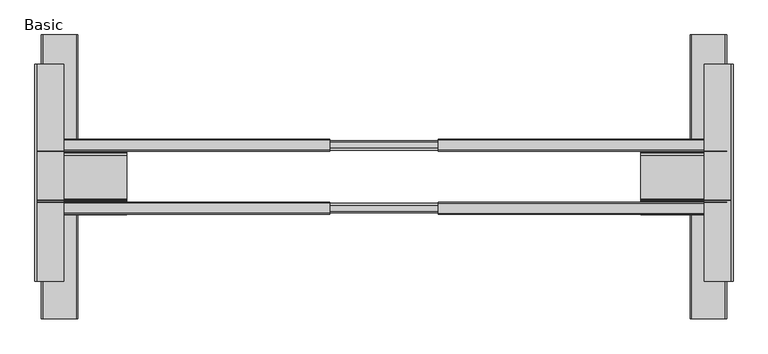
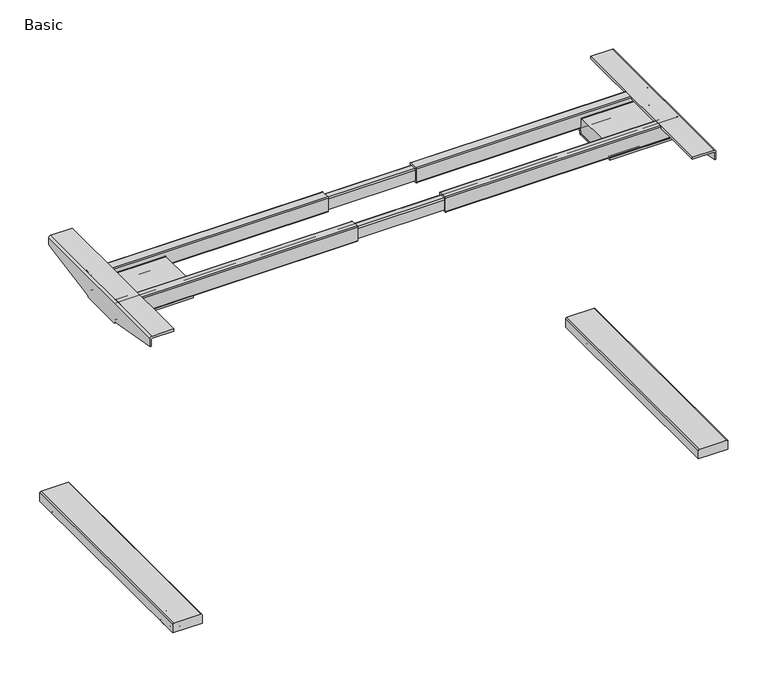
"""IFC4 building model written with IfcOpenShell, lengths in millimetres: furniture geometry, Steelcase Turnstone - Bivi - T Base : Basic."""

from ifc_helpers import new_model, si_unit, point, frame, frame_2d, origin, place, context, project, spatial, polyline, circle_curve, ellipse_curve, trimmed, segment, composite_curve, outline, extrude, source, transform, mapped, element, save
from ifc_brep_helpers import plane_surface, cylinder_surface, revolved_surface, advanced_brep


def basic_f1bcc497(model_context):
    return source(origin(), model_context, "Body", "SolidModel", [
        advanced_brep(
        [(497.0697971, 171.9471628, 0.0), (497.0697971, 111.031484, 0.0), (497.0697971, 141.4893234, 0.0), (497.0697971, 173.9813657, 2.034203), (497.0697971, 108.997281, 2.034203), (497.0697971, 173.9813657, 5.0424709), (497.0697971, 108.997281, 5.0424709), (497.0697971, 171.9620755, 7.0617612), (497.0697971, 111.0165712, 7.0617612), (497.0697971, 149.0390808, 9.288914), (497.0697971, 133.9395659, 9.288914), (497.0697971, 141.4893234, 9.288914)],
        [
            (0, 1, circle_curve(frame((497.0697971, 141.4893234, 0.0), z_axis=(0.0, 0.0, -1.0), x_axis=(0.0, -1.0, 0.0)), 30.4578394)),
            (1, 2),
            (2, 0),
            (1, 0, circle_curve(frame((497.0697971, 141.4893234, 0.0), z_axis=(0.0, 0.0, -1.0), x_axis=(0.0, -1.0, 0.0)), 30.4578394)),
            (3, 4, circle_curve(frame((497.0697971, 141.4893234, 2.034203), z_axis=(0.0, 0.0, -1.0), x_axis=(0.0, -1.0, 0.0)), 32.4920424)),
            (4, 1, circle_curve(frame((497.0697971, 111.031484, 2.034203), z_axis=(1.0, 0.0, 0.0), x_axis=(0.0, 1.0, 0.0)), 2.034203)),
            (0, 3, circle_curve(frame((497.0697971, 171.9471628, 2.034203), z_axis=(1.0, 0.0, 0.0), x_axis=(0.0, -1.0, 0.0)), 2.034203)),
            (4, 3, circle_curve(frame((497.0697971, 141.4893234, 2.034203), z_axis=(0.0, 0.0, -1.0), x_axis=(0.0, -1.0, 0.0)), 32.4920424)),
            (5, 6, circle_curve(frame((497.0697971, 141.4893234, 5.0424709), z_axis=(0.0, 0.0, -1.0), x_axis=(0.0, -1.0, 0.0)), 32.4920424)),
            (6, 4),
            (3, 5),
            (6, 5, circle_curve(frame((497.0697971, 141.4893234, 5.0424709), z_axis=(0.0, 0.0, -1.0), x_axis=(0.0, -1.0, 0.0)), 32.4920424)),
            (7, 8, circle_curve(frame((497.0697971, 141.4893234, 7.0617612), z_axis=(0.0, 0.0, -1.0), x_axis=(0.0, -1.0, 0.0)), 30.4727521)),
            (8, 6, circle_curve(frame((497.0697971, 111.0165712, 5.0424709), z_axis=(1.0, 0.0, 0.0), x_axis=(0.0, 1.0, 0.0)), 2.0192902)),
            (5, 7, circle_curve(frame((497.0697971, 171.9620755, 5.0424709), z_axis=(1.0, 0.0, 0.0), x_axis=(0.0, -1.0, 0.0)), 2.0192902)),
            (8, 7, circle_curve(frame((497.0697971, 141.4893234, 7.0617612), z_axis=(0.0, 0.0, -1.0), x_axis=(0.0, -1.0, 0.0)), 30.4727521)),
            (9, 10, circle_curve(frame((497.0697971, 141.4893234, 9.288914), z_axis=(0.0, 0.0, -1.0), x_axis=(0.0, -1.0, 0.0)), 7.5497574)),
            (10, 8),
            (7, 9),
            (10, 9, circle_curve(frame((497.0697971, 141.4893234, 9.288914), z_axis=(0.0, 0.0, -1.0), x_axis=(0.0, -1.0, 0.0)), 7.5497574)),
            (11, 10),
            (9, 11),
        ],
        [
            plane_surface(frame((497.0697971, 141.4893234, 0.0), z_axis=(0.0, 0.0, -1.0), x_axis=(0.0, -1.0, 0.0))),
            revolved_surface(trimmed(ellipse_curve(frame((497.0697971, 111.031484, 2.034203), z_axis=(-1.0, 0.0, 0.0), x_axis=(0.0, 1.0, 0.0)), 2.034203, 2.034203), [point((497.0697971, 111.031484, 0.0))], [point((497.0697971, 108.997281, 2.034203))], True, "CARTESIAN"), (497.0697971, 141.4893234, 13.4607192), (0.0, 0.0, 1.0)),
            cylinder_surface(frame((497.0697971, 141.4893234, 13.4607192), z_axis=(0.0, 0.0, 1.0), x_axis=(0.0, -1.0, 0.0)), 32.4920424),
            revolved_surface(trimmed(ellipse_curve(frame((497.0697971, 111.0165712, 5.0424709), z_axis=(-1.0, 0.0, 0.0), x_axis=(0.0, 1.0, 0.0)), 2.0192902, 2.0192902), [point((497.0697971, 108.997281, 5.0424709))], [point((497.0697971, 111.0165712, 7.0617612))], True, "CARTESIAN"), (497.0697971, 141.4893234, 13.4607192), (0.0, 0.0, 1.0)),
            revolved_surface(polyline([(497.0697971, 111.0165712, 7.0617612), (497.0697971, 133.9395659, 9.288914)]), (497.0697971, 141.4893234, 13.4607192), (0.0, 0.0, 1.0)),
            plane_surface(frame((497.0697971, 141.4893234, 9.288914), z_axis=(0.0, 0.0, 1.0), x_axis=(0.0, -1.0, 0.0))),
        ],
        [
            (0, [[1, 2, 3]]),
            (0, [[4, -3, -2]]),
            (1, [[5, 6, -1, 7]]),
            (1, [[8, -7, -4, -6]]),
            (2, [[9, 10, -5, 11]]),
            (2, [[12, -11, -8, -10]]),
            (3, [[13, 14, -9, 15]]),
            (3, [[16, -15, -12, -14]]),
            (4, [[17, 18, -13, 19]]),
            (4, [[20, -19, -16, -18]]),
            (5, [[21, -17, 22]]),
            (5, [[-22, -20, -21]]),
        ],
    ),
        advanced_brep(
        [(-841.5102029, -367.0453334, 0.0), (-841.5102029, -306.1296546, 0.0), (-841.5102029, -336.587494, 0.0), (-841.5102029, -369.0795363, 2.034203), (-841.5102029, -304.0954516, 2.034203), (-841.5102029, -369.0795363, 5.0424709), (-841.5102029, -304.0954516, 5.0424709), (-841.5102029, -367.0602461, 7.0617612), (-841.5102029, -306.1147418, 7.0617612), (-841.5102029, -344.1372514, 9.288914), (-841.5102029, -329.0377365, 9.288914), (-841.5102029, -336.587494, 9.288914)],
        [
            (0, 1, circle_curve(frame((-841.5102029, -336.587494, 0.0), z_axis=(0.0, 0.0, -1.0), x_axis=(0.0, 1.0, 0.0)), 30.4578394)),
            (1, 2),
            (2, 0),
            (1, 0, circle_curve(frame((-841.5102029, -336.587494, 0.0), z_axis=(0.0, 0.0, -1.0), x_axis=(0.0, 1.0, 0.0)), 30.4578394)),
            (3, 4, circle_curve(frame((-841.5102029, -336.587494, 2.034203), z_axis=(0.0, 0.0, -1.0), x_axis=(0.0, 1.0, 0.0)), 32.4920424)),
            (4, 1, circle_curve(frame((-841.5102029, -306.1296546, 2.034203), z_axis=(-1.0, 0.0, 0.0), x_axis=(0.0, 1.0, 0.0)), 2.034203)),
            (0, 3, circle_curve(frame((-841.5102029, -367.0453334, 2.034203), z_axis=(-1.0, 0.0, 0.0), x_axis=(0.0, -1.0, 0.0)), 2.034203)),
            (4, 3, circle_curve(frame((-841.5102029, -336.587494, 2.034203), z_axis=(0.0, 0.0, -1.0), x_axis=(0.0, 1.0, 0.0)), 32.4920424)),
            (5, 6, circle_curve(frame((-841.5102029, -336.587494, 5.0424709), z_axis=(0.0, 0.0, -1.0), x_axis=(0.0, 1.0, 0.0)), 32.4920424)),
            (6, 4),
            (3, 5),
            (6, 5, circle_curve(frame((-841.5102029, -336.587494, 5.0424709), z_axis=(0.0, 0.0, -1.0), x_axis=(0.0, 1.0, 0.0)), 32.4920424)),
            (7, 8, circle_curve(frame((-841.5102029, -336.587494, 7.0617612), z_axis=(0.0, 0.0, -1.0), x_axis=(0.0, 1.0, 0.0)), 30.4727521)),
            (8, 6, circle_curve(frame((-841.5102029, -306.1147418, 5.0424709), z_axis=(-1.0, 0.0, 0.0), x_axis=(0.0, 1.0, 0.0)), 2.0192902)),
            (5, 7, circle_curve(frame((-841.5102029, -367.0602461, 5.0424709), z_axis=(-1.0, 0.0, 0.0), x_axis=(0.0, -1.0, 0.0)), 2.0192902)),
            (8, 7, circle_curve(frame((-841.5102029, -336.587494, 7.0617612), z_axis=(0.0, 0.0, -1.0), x_axis=(0.0, 1.0, 0.0)), 30.4727521)),
            (9, 10, circle_curve(frame((-841.5102029, -336.587494, 9.288914), z_axis=(0.0, 0.0, -1.0), x_axis=(0.0, 1.0, 0.0)), 7.5497574)),
            (10, 8),
            (7, 9),
            (10, 9, circle_curve(frame((-841.5102029, -336.587494, 9.288914), z_axis=(0.0, 0.0, -1.0), x_axis=(0.0, 1.0, 0.0)), 7.5497574)),
            (11, 10),
            (9, 11),
        ],
        [
            plane_surface(frame((-841.5102029, -336.587494, 0.0), z_axis=(0.0, 0.0, -1.0), x_axis=(0.0, 1.0, 0.0))),
            revolved_surface(trimmed(ellipse_curve(frame((-841.5102029, -306.1296546, 2.034203), z_axis=(1.0, 0.0, 0.0), x_axis=(0.0, 1.0, 0.0)), 2.034203, 2.034203), [point((-841.5102029, -306.1296546, 0.0))], [point((-841.5102029, -304.0954516, 2.034203))], True, "CARTESIAN"), (-841.5102029, -336.587494, 13.4607192), (0.0, 0.0, 1.0)),
            cylinder_surface(frame((-841.5102029, -336.587494, 13.4607192), z_axis=(0.0, 0.0, 1.0), x_axis=(0.0, 1.0, 0.0)), 32.4920424),
            revolved_surface(trimmed(ellipse_curve(frame((-841.5102029, -306.1147418, 5.0424709), z_axis=(1.0, 0.0, 0.0), x_axis=(0.0, 1.0, 0.0)), 2.0192902, 2.0192902), [point((-841.5102029, -304.0954516, 5.0424709))], [point((-841.5102029, -306.1147418, 7.0617612))], True, "CARTESIAN"), (-841.5102029, -336.587494, 13.4607192), (0.0, 0.0, 1.0)),
            revolved_surface(polyline([(-841.5102029, -306.1147418, 7.0617612), (-841.5102029, -329.0377365, 9.288914)]), (-841.5102029, -336.587494, 13.4607192), (0.0, 0.0, 1.0)),
            plane_surface(frame((-841.5102029, -336.587494, 9.288914), z_axis=(0.0, 0.0, 1.0), x_axis=(0.0, 1.0, 0.0))),
        ],
        [
            (0, [[1, 2, 3]]),
            (0, [[4, -3, -2]]),
            (1, [[5, 6, -1, 7]]),
            (1, [[8, -7, -4, -6]]),
            (2, [[9, 10, -5, 11]]),
            (2, [[12, -11, -8, -10]]),
            (3, [[13, 14, -9, 15]]),
            (3, [[16, -15, -12, -14]]),
            (4, [[17, 18, -13, 19]]),
            (4, [[20, -19, -16, -18]]),
            (5, [[21, -17, 22]]),
            (5, [[-22, -20, -21]]),
        ],
    ),
        advanced_brep(
        [(544.3274973, -158.2325705, 706.7459466), (546.8411807, -158.2325705, 706.7459466), (546.8411807, -313.1690409, 735.4690634), (544.3274973, -313.1690409, 735.4690634), (544.3274973, -154.5901123, 703.1034885), (546.8411807, -154.5901123, 703.1034885), (544.3274973, -37.2242924, 706.7459466), (546.8411807, -37.2242924, 706.7459466), (546.8411807, -40.8667505, 703.1034885), (544.3274973, -40.8667505, 703.1034885), (544.3274973, 133.8680014, 738.4641336), (546.8411807, 133.8680014, 738.4641336), (546.8411807, -313.1690409, 757.1424174), (541.5835981, -313.1690409, 762.4), (487.1744146, -313.1690409, 762.4), (487.1744146, -313.1690409, 756.3136941), (541.5835981, -313.1690409, 756.3136941), (544.3274973, -313.1690409, 753.5697948), (544.3274973, 133.8680014, 753.5697948), (541.5835981, 133.8680014, 756.3136941), (487.1744146, 133.8680014, 756.3136941), (487.1744146, 133.8680014, 762.4), (541.5835981, 133.8680014, 762.4), (546.8411807, 133.8680014, 757.1424174)],
        [
            (0, 1),
            (1, 2),
            (2, 3),
            (3, 0),
            (0, 4),
            (4, 5),
            (5, 1),
            (6, 7),
            (7, 8),
            (8, 9),
            (9, 6),
            (6, 10),
            (10, 11),
            (11, 7),
            (12, 13, circle_curve(frame((541.5835981, -313.1690409, 757.1424174), z_axis=(0.0, -1.0, 0.0), x_axis=(-1.0, 0.0, 0.0)), 5.2575826)),
            (13, 14),
            (14, 15),
            (15, 16),
            (16, 17, circle_curve(frame((541.5835981, -313.1690409, 753.5697948), z_axis=(0.0, 1.0, 0.0), x_axis=(-1.0, 0.0, 0.0)), 2.7438992)),
            (17, 3),
            (2, 12),
            (18, 19, circle_curve(frame((541.5835981, 133.8680014, 753.5697948), z_axis=(0.0, -1.0, 0.0), x_axis=(-1.0, 0.0, 0.0)), 2.7438992)),
            (19, 20),
            (20, 21),
            (21, 22),
            (22, 23, circle_curve(frame((541.5835981, 133.8680014, 757.1424174), z_axis=(0.0, 1.0, 0.0), x_axis=(-1.0, 0.0, 0.0)), 5.2575826)),
            (23, 11),
            (10, 18),
            (17, 18),
            (9, 4),
            (16, 19),
            (15, 20),
            (14, 21),
            (13, 22),
            (12, 23),
            (5, 8),
        ],
        [
            plane_surface(frame((907.5476074, -158.2325705, 706.7459466), z_axis=(0.0, -0.18228055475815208, -0.983246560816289), x_axis=(-1.0, 0.0, 0.0))),
            plane_surface(frame((907.5476074, -152.8866238, 701.4), z_axis=(0.0, -0.7071067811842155, -0.7071067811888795), x_axis=(-1.0, 0.0, 0.0))),
            plane_surface(frame((907.5476074, -37.2242924, 706.7459466), z_axis=(0.0, 0.707106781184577, -0.7071067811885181), x_axis=(-1.0, 0.0, 0.0))),
            plane_surface(frame((907.5476074, 190.3320215, 748.9317958), z_axis=(0.0, 0.18228055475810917, -0.983246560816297), x_axis=(-1.0, 0.0, 0.0))),
            plane_surface(frame((546.8411807, -313.1690409, 703.1034885), z_axis=(0.0, -1.0, 0.0), x_axis=(1.0, 0.0, 0.0))),
            plane_surface(frame((546.8411807, 133.8680014, 703.1034885), z_axis=(0.0, 1.0, 0.0), x_axis=(-1.0, 0.0, 0.0))),
            plane_surface(frame((544.3274973, -313.1690409, 753.5697948), z_axis=(-1.0, 0.0, 0.0), x_axis=(0.0, 1.0, 0.0))),
            revolved_surface(polyline([(538.8396989, 133.8680014, 753.5697948), (538.8396989, -313.1690409, 753.5697948)]), (541.5835981, 133.8680014, 753.5697948), (0.0, 1.0, 0.0)),
            plane_surface(frame((487.1744146, -313.1690409, 756.3136941), z_axis=(1.709108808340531e-12, 0.0, -1.0), x_axis=(0.0, 1.0, 0.0))),
            plane_surface(frame((487.1744146, -313.1690409, 762.4), z_axis=(-1.0, 0.0, 0.0), x_axis=(0.0, 1.0, 0.0))),
            plane_surface(frame((541.5835981, -313.1690409, 762.4), z_axis=(0.0, 0.0, 1.0), x_axis=(0.0, 1.0, 0.0))),
            cylinder_surface(frame((541.5835981, 133.8680014, 757.1424174), z_axis=(0.0, -1.0, 0.0), x_axis=(-1.0, 0.0, 0.0)), 5.2575826),
            plane_surface(frame((546.8411807, -313.1690409, 703.1034885), z_axis=(1.0, 0.0, 0.0), x_axis=(0.0, 1.0, 0.0))),
            plane_surface(frame((544.3274973, -313.1690409, 703.1034885), z_axis=(0.0, 0.0, -1.0), x_axis=(0.0, 1.0, 0.0))),
        ],
        [
            (0, [[1, 2, 3, 4]]),
            (1, [[-1, 5, 6, 7]]),
            (2, [[8, 9, 10, 11]]),
            (3, [[-8, 12, 13, 14]]),
            (4, [[15, 16, 17, 18, 19, 20, -3, 21]]),
            (5, [[22, 23, 24, 25, 26, 27, -13, 28]]),
            (6, [[29, -28, -12, -11, 30, -5, -4, -20]]),
            (7, [[-19, 31, -22, -29]]),
            (8, [[-18, 32, -23, -31]]),
            (9, [[-17, 33, -24, -32]]),
            (10, [[-16, 34, -25, -33]]),
            (11, [[-15, 35, -26, -34]]),
            (12, [[-35, -21, -2, -7, 36, -9, -14, -27]]),
            (13, [[-36, -6, -30, -10]]),
        ],
    ),
        advanced_brep(
        [(-888.7231206, -313.1690409, 753.5697948), (-885.9792213, -313.1690409, 756.3136941), (-831.3419689, -313.1690409, 756.3136941), (-831.3419689, -313.1690409, 762.4), (-885.7645206, -313.1690409, 762.4), (-891.0221032, -313.1690409, 757.1424174), (-891.0221032, -313.1690409, 735.4690634), (-888.7231206, -313.1690409, 735.4690634), (-891.0221032, 133.8680014, 757.1424174), (-885.7645206, 133.8680014, 762.4), (-831.3419689, 133.8680014, 762.4), (-831.3419689, 133.8680014, 756.3136941), (-885.9792213, 133.8680014, 756.3136941), (-888.7231206, 133.8680014, 753.5697948), (-888.7231206, 133.8680014, 738.4641336), (-891.0221032, 133.8680014, 738.4641336), (-888.7231206, -158.2325705, 706.7459466), (-888.7231206, -154.5901123, 703.1034885), (-888.7231206, -40.8667505, 703.1034885), (-888.7231206, -37.2242924, 706.7459466), (-891.0221032, -37.2242924, 706.7459466), (-891.0221032, -40.8667505, 703.1034885), (-891.0221032, -154.5901123, 703.1034885), (-891.0221032, -158.2325705, 706.7459466)],
        [
            (0, 1, circle_curve(frame((-885.9792213, -313.1690409, 753.5697948), z_axis=(0.0, 1.0, 0.0), x_axis=(1.0, 0.0, 0.0)), 2.7438992)),
            (1, 2),
            (2, 3),
            (3, 4),
            (4, 5, circle_curve(frame((-885.7645206, -313.1690409, 757.1424174), z_axis=(0.0, -1.0, 0.0), x_axis=(1.0, 0.0, 0.0)), 5.2575826)),
            (5, 6),
            (6, 7),
            (7, 0),
            (8, 9, circle_curve(frame((-885.7645206, 133.8680014, 757.1424174), z_axis=(0.0, 1.0, 0.0), x_axis=(1.0, 0.0, 0.0)), 5.2575826)),
            (9, 10),
            (10, 11),
            (11, 12),
            (12, 13, circle_curve(frame((-885.9792213, 133.8680014, 753.5697948), z_axis=(0.0, -1.0, 0.0), x_axis=(1.0, 0.0, 0.0)), 2.7438992)),
            (13, 14),
            (14, 15),
            (15, 8),
            (13, 0),
            (7, 16),
            (16, 17),
            (17, 18),
            (18, 19),
            (19, 14),
            (12, 1),
            (11, 2),
            (10, 3),
            (9, 4),
            (8, 5),
            (15, 20),
            (20, 21),
            (21, 22),
            (22, 23),
            (23, 6),
            (17, 22),
            (21, 18),
            (23, 16),
            (20, 19),
        ],
        [
            plane_surface(frame((-888.7231206, -313.1690409, 753.5697948), z_axis=(0.0, -1.0, 0.0), x_axis=(0.0, 0.0, 1.0))),
            plane_surface(frame((-888.7231206, 133.8680014, 753.5697948), z_axis=(0.0, 1.0, 0.0), x_axis=(0.0, 0.0, -1.0))),
            plane_surface(frame((-888.7231206, -313.1690409, 703.1034885), z_axis=(1.0, 0.0, 0.0), x_axis=(0.0, 1.0, 0.0))),
            revolved_surface(polyline([(-883.2353221, 133.8680014, 753.5697948), (-883.2353221, -313.1690409, 753.5697948)]), (-885.9792213, 133.8680014, 753.5697948), (0.0, 1.0, 0.0)),
            plane_surface(frame((-885.9792213, -313.1690409, 756.3136941), z_axis=(0.0, 0.0, -1.0), x_axis=(0.0, 1.0, 0.0))),
            plane_surface(frame((-831.3419689, -313.1690409, 756.3136941), z_axis=(1.0, 0.0, 0.0), x_axis=(0.0, 1.0, 0.0))),
            plane_surface(frame((-831.3419689, -313.1690409, 762.4), z_axis=(0.0, 0.0, 1.0), x_axis=(0.0, 1.0, 0.0))),
            cylinder_surface(frame((-885.7645206, 133.8680014, 757.1424174), z_axis=(0.0, -1.0, 0.0), x_axis=(1.0, 0.0, 0.0)), 5.2575826),
            plane_surface(frame((-891.0221032, -313.1690409, 757.1424174), z_axis=(-1.0, 0.0, 0.0), x_axis=(0.0, 1.0, 0.0))),
            plane_surface(frame((-891.0221032, -313.1690409, 703.1034885), z_axis=(0.0, 0.0, -1.0), x_axis=(0.0, 1.0, 0.0))),
            plane_surface(frame((-977.145801, -385.7888843, 748.9317958), z_axis=(0.0, -0.18228055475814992, -0.9832465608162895), x_axis=(1.0, 0.0, 0.0))),
            plane_surface(frame((-977.145801, -158.2325705, 706.7459466), z_axis=(0.0, -0.7071067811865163, -0.7071067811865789), x_axis=(1.0, 0.0, 0.0))),
            plane_surface(frame((-977.145801, -42.570239, 701.4), z_axis=(0.0, 0.7071067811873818, -0.7071067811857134), x_axis=(1.0, 0.0, 0.0))),
            plane_surface(frame((-977.145801, -37.2242924, 706.7459466), z_axis=(0.0, 0.1822805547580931, -0.9832465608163), x_axis=(1.0, 0.0, 0.0))),
        ],
        [
            (0, [[1, 2, 3, 4, 5, 6, 7, 8]]),
            (1, [[9, 10, 11, 12, 13, 14, 15, 16]]),
            (2, [[17, -8, 18, 19, 20, 21, 22, -14]]),
            (3, [[-1, -17, -13, 23]]),
            (4, [[-2, -23, -12, 24]]),
            (5, [[-3, -24, -11, 25]]),
            (6, [[-4, -25, -10, 26]]),
            (7, [[-5, -26, -9, 27]]),
            (8, [[-27, -16, 28, 29, 30, 31, 32, -6]]),
            (9, [[-20, 33, -30, 34]]),
            (10, [[35, -18, -7, -32]]),
            (11, [[-35, -31, -33, -19]]),
            (12, [[36, -21, -34, -29]]),
            (13, [[-36, -28, -15, -22]]),
        ],
    ),
        extrude(outline(composite_curve([segment(polyline([(7.9650038, 458.6637802), (7.9650038, 533.7381849), (30.0204767, 533.7381849)]), True, "CONTINUOUS"), segment(trimmed(circle_curve(frame_2d((30.0204767, 530.7575777)), 2.9806072), [point((30.0204767, 533.7381849))], [point((33.0010839, 530.7575777))], False, "CARTESIAN"), True, "CONTINUOUS"), segment(polyline([(33.0010839, 530.7575777), (33.0010839, 461.8342027)]), True, "CONTINUOUS"), segment(trimmed(circle_curve(frame_2d((29.8306613, 461.8342027)), 3.1704226), [point((33.0010839, 461.8342027))], [point((29.8306613, 458.6637802))], False, "CARTESIAN"), True, "CONTINUOUS"), segment(polyline([(29.8306613, 458.6637802), (7.9650038, 458.6637802)]), True, "CONTINUOUS")], self_intersect=False)), frame((0.0, -389.6490853, 0.0), z_axis=(0.0, 1.0, 0.0), x_axis=(0.0, 0.0, 1.0)), (0.0, 0.0, 1.0), 584.2),
        extrude(outline(composite_curve([segment(polyline([(7.9650038, -803.104186), (29.8306613, -803.104186)]), True, "CONTINUOUS"), segment(trimmed(circle_curve(frame_2d((29.8306613, -806.2746086)), 3.1704226), [point((29.8306613, -803.104186))], [point((33.0010839, -806.2746086))], False, "CARTESIAN"), True, "CONTINUOUS"), segment(polyline([(33.0010839, -806.2746086), (33.0010839, -875.1979836)]), True, "CONTINUOUS"), segment(trimmed(circle_curve(frame_2d((30.0204767, -875.1979836)), 2.9806072), [point((33.0010839, -875.1979836))], [point((30.0204767, -878.1785908))], False, "CARTESIAN"), True, "CONTINUOUS"), segment(polyline([(30.0204767, -878.1785908), (7.9650038, -878.1785908), (7.9650038, -803.104186)]), True, "CONTINUOUS")], self_intersect=False)), frame((0.0, -389.6490853, 0.0), z_axis=(0.0, 1.0, 0.0), x_axis=(0.0, 0.0, 1.0)), (0.0, 0.0, 1.0), 584.2),
        extrude(outline(composite_curve([segment(trimmed(circle_curve(frame_2d((-22.6846088, 724.4247064)), 2.54), [point((-20.1446088, 724.4247064))], [point((-22.6846088, 721.8847064))], False, "CARTESIAN"), True, "CONTINUOUS"), segment(polyline([(-22.6846088, 721.8847064), (-43.0735084, 721.8847064)]), True, "CONTINUOUS"), segment(trimmed(circle_curve(frame_2d((-43.0735084, 724.3558068)), 2.4711004), [point((-43.0735084, 721.8847064))], [point((-45.5446088, 724.3558068))], False, "CARTESIAN"), True, "CONTINUOUS"), segment(polyline([(-45.5446088, 724.3558068), (-45.5446088, 759.897389)]), True, "CONTINUOUS"), segment(trimmed(circle_curve(frame_2d((-43.0419978, 759.897389)), 2.502611), [point((-45.5446088, 759.897389))], [point((-43.0419978, 762.4))], False, "CARTESIAN"), True, "CONTINUOUS"), segment(polyline([(-43.0419978, 762.4), (-22.5036523, 762.4)]), True, "CONTINUOUS"), segment(trimmed(circle_curve(frame_2d((-22.5036523, 760.0409564)), 2.3590436), [point((-22.5036523, 762.4))], [point((-20.1446088, 760.0409564))], False, "CARTESIAN"), True, "CONTINUOUS"), segment(polyline([(-20.1446088, 760.0409564), (-20.1446088, 724.4247064)]), True, "CONTINUOUS")], self_intersect=False)), frame((-60.4602029, 0.0, 0.0), z_axis=(1.0, 0.0, 0.0), x_axis=(0.0, 1.0, 0.0)), (0.0, 0.0, 1.0), 594.1983879),
        extrude(outline(composite_curve([segment(polyline([(-175.0303912, 724.4247064), (-175.0303912, 760.0409564)]), True, "CONTINUOUS"), segment(trimmed(circle_curve(frame_2d((-172.6713476, 760.0409564)), 2.3590436), [point((-175.0303912, 760.0409564))], [point((-172.6713476, 762.4))], False, "CARTESIAN"), True, "CONTINUOUS"), segment(polyline([(-172.6713476, 762.4), (-152.1330021, 762.4)]), True, "CONTINUOUS"), segment(trimmed(circle_curve(frame_2d((-152.1330021, 759.897389)), 2.502611), [point((-152.1330021, 762.4))], [point((-149.6303912, 759.897389))], False, "CARTESIAN"), True, "CONTINUOUS"), segment(polyline([(-149.6303912, 759.897389), (-149.6303912, 724.3558068)]), True, "CONTINUOUS"), segment(trimmed(circle_curve(frame_2d((-152.1014916, 724.3558068)), 2.4711004), [point((-149.6303912, 724.3558068))], [point((-152.1014916, 721.8847064))], False, "CARTESIAN"), True, "CONTINUOUS"), segment(polyline([(-152.1014916, 721.8847064), (-172.4903912, 721.8847064)]), True, "CONTINUOUS"), segment(trimmed(circle_curve(frame_2d((-172.4903912, 724.4247064)), 2.54), [point((-172.4903912, 721.8847064))], [point((-175.0303912, 724.4247064))], False, "CARTESIAN"), True, "CONTINUOUS")], self_intersect=False)), frame((-60.4602029, 0.0, 0.0), z_axis=(1.0, 0.0, 0.0), x_axis=(0.0, 1.0, 0.0)), (0.0, 0.0, 1.0), 594.1983879),
        extrude(outline(composite_curve([segment(polyline([(-41.1510404, 716.7696117), (-42.2051171, 711.022656)]), True, "CONTINUOUS"), segment(trimmed(circle_curve(frame_2d((-47.3092607, 711.9588315)), 5.1892877), [point((-42.2051171, 711.022656))], [point((-47.3092607, 706.7695438))], False, "CARTESIAN"), True, "CONTINUOUS"), segment(polyline([(-47.3092607, 706.7695438), (-148.1476021, 706.7695438)]), True, "CONTINUOUS"), segment(trimmed(circle_curve(frame_2d((-148.1476021, 711.9588315)), 5.1892877), [point((-148.1476021, 706.7695438))], [point((-153.2517457, 711.022656))], False, "CARTESIAN"), True, "CONTINUOUS"), segment(polyline([(-153.2517457, 711.022656), (-154.3058224, 716.7696117), (-175.3056356, 716.7696117), (-175.3056356, 721.8847064), (-154.8075486, 721.8847064)]), True, "CONTINUOUS"), segment(trimmed(circle_curve(frame_2d((-154.8075486, 716.3079909)), 5.5767155), [point((-154.8075486, 721.8847064))], [point((-149.3222025, 717.3133434))], False, "CARTESIAN"), True, "CONTINUOUS"), segment(polyline([(-149.3222025, 717.3133434), (-148.3061517, 711.7696262), (-47.7075617, 711.7696262), (-46.6915109, 717.3133434)]), True, "CONTINUOUS"), segment(trimmed(circle_curve(frame_2d((-41.2061648, 716.3079909)), 5.5767155), [point((-46.6915109, 717.3133434))], [point((-41.2061648, 721.8847064))], False, "CARTESIAN"), True, "CONTINUOUS"), segment(polyline([(-41.2061648, 721.8847064), (-20.3067633, 721.8847064), (-20.3067633, 716.7696117), (-41.1510404, 716.7696117)]), True, "CONTINUOUS")], self_intersect=False)), frame((356.9531648, 0.0, 0.0), z_axis=(1.0, 0.0, 0.0), x_axis=(0.0, 1.0, 0.0)), (0.0, 0.0, 1.0), 184.6304333),
        extrude(outline(composite_curve([segment(polyline([(-49.146017, 750.0927128), (-47.8070711, 711.7696262), (-147.8056669, 711.7696262), (-146.4667677, 750.0927082)]), True, "CONTINUOUS"), segment(trimmed(circle_curve(frame_2d((-142.6590908, 749.9596788)), 3.81), [point((-146.4667677, 750.0927082))], [point((-142.6590908, 753.7696788))], False, "CARTESIAN"), True, "CONTINUOUS"), segment(polyline([(-142.6590908, 753.7696788), (-52.9536937, 753.7696788)]), True, "CONTINUOUS"), segment(trimmed(circle_curve(frame_2d((-52.9536937, 749.9596788)), 3.81), [point((-52.9536937, 753.7696788))], [point((-49.146017, 750.0927128))], False, "CARTESIAN"), True, "CONTINUOUS")], self_intersect=False)), frame((356.9531648, 0.0, 0.0), z_axis=(1.0, 0.0, 0.0), x_axis=(0.0, 1.0, 0.0)), (0.0, 0.0, 1.0), 184.6304333),
        extrude(outline(composite_curve([segment(polyline([(-49.146017, 750.0927128), (-47.8070711, 711.7696262), (-147.8056669, 711.7696262), (-146.4667677, 750.0927082)]), True, "CONTINUOUS"), segment(trimmed(circle_curve(frame_2d((-142.6590908, 749.9596788)), 3.81), [point((-146.4667677, 750.0927082))], [point((-142.6590908, 753.7696788))], False, "CARTESIAN"), True, "CONTINUOUS"), segment(polyline([(-142.6590908, 753.7696788), (-52.9536937, 753.7696788)]), True, "CONTINUOUS"), segment(trimmed(circle_curve(frame_2d((-52.9536937, 749.9596788)), 3.81), [point((-52.9536937, 753.7696788))], [point((-49.146017, 750.0927128))], False, "CARTESIAN"), True, "CONTINUOUS")], self_intersect=False)), frame((-886.024004, 0.0, 0.0), z_axis=(1.0, 0.0, 0.0), x_axis=(0.0, 1.0, 0.0)), (0.0, 0.0, 1.0), 184.6304333),
        extrude(outline(composite_curve([segment(trimmed(circle_curve(frame_2d((-22.6461941, 724.4247064)), 2.54), [point((-20.1061941, 724.4247064))], [point((-22.6461941, 721.8847064))], False, "CARTESIAN"), True, "CONTINUOUS"), segment(polyline([(-22.6461941, 721.8847064), (-43.0350937, 721.8847064)]), True, "CONTINUOUS"), segment(trimmed(circle_curve(frame_2d((-43.0350937, 724.3558068)), 2.4711004), [point((-43.0350937, 721.8847064))], [point((-45.5061941, 724.3558068))], False, "CARTESIAN"), True, "CONTINUOUS"), segment(polyline([(-45.5061941, 724.3558068), (-45.5061941, 759.897389)]), True, "CONTINUOUS"), segment(trimmed(circle_curve(frame_2d((-43.0035831, 759.897389)), 2.502611), [point((-45.5061941, 759.897389))], [point((-43.0035831, 762.4))], False, "CARTESIAN"), True, "CONTINUOUS"), segment(polyline([(-43.0035831, 762.4), (-22.4652377, 762.4)]), True, "CONTINUOUS"), segment(trimmed(circle_curve(frame_2d((-22.4652377, 760.0409564)), 2.3590436), [point((-22.4652377, 762.4))], [point((-20.1061941, 760.0409564))], False, "CARTESIAN"), True, "CONTINUOUS"), segment(polyline([(-20.1061941, 760.0409564), (-20.1061941, 724.4247064)]), True, "CONTINUOUS")], self_intersect=False)), frame((-886.024004, 0.0, 0.0), z_axis=(1.0, 0.0, 0.0), x_axis=(0.0, 1.0, 0.0)), (0.0, 0.0, 1.0), 602.043801),
        extrude(outline(composite_curve([segment(polyline([(-174.9919765, 724.4247064), (-174.9919765, 760.0409564)]), True, "CONTINUOUS"), segment(trimmed(circle_curve(frame_2d((-172.6329329, 760.0409564)), 2.3590436), [point((-174.9919765, 760.0409564))], [point((-172.6329329, 762.4))], False, "CARTESIAN"), True, "CONTINUOUS"), segment(polyline([(-172.6329329, 762.4), (-152.0945875, 762.4)]), True, "CONTINUOUS"), segment(trimmed(circle_curve(frame_2d((-152.0945875, 759.897389)), 2.502611), [point((-152.0945875, 762.4))], [point((-149.5919765, 759.897389))], False, "CARTESIAN"), True, "CONTINUOUS"), segment(polyline([(-149.5919765, 759.897389), (-149.5919765, 724.3558068)]), True, "CONTINUOUS"), segment(trimmed(circle_curve(frame_2d((-152.0630769, 724.3558068)), 2.4711004), [point((-149.5919765, 724.3558068))], [point((-152.0630769, 721.8847064))], False, "CARTESIAN"), True, "CONTINUOUS"), segment(polyline([(-152.0630769, 721.8847064), (-172.4519765, 721.8847064)]), True, "CONTINUOUS"), segment(trimmed(circle_curve(frame_2d((-172.4519765, 724.4247064)), 2.54), [point((-172.4519765, 721.8847064))], [point((-174.9919765, 724.4247064))], False, "CARTESIAN"), True, "CONTINUOUS")], self_intersect=False)), frame((-886.024004, 0.0, 0.0), z_axis=(1.0, 0.0, 0.0), x_axis=(0.0, 1.0, 0.0)), (0.0, 0.0, 1.0), 602.043801),
        extrude(outline(composite_curve([segment(polyline([(-25.1062849, 727.2695037), (-25.1062849, 755.3113189)]), True, "CONTINUOUS"), segment(trimmed(circle_curve(frame_2d((-25.6644682, 755.3113189)), 0.5581833), [point((-25.1062849, 755.3113189))], [point((-25.6644682, 755.8695022))], True, "CARTESIAN"), True, "CONTINUOUS"), segment(polyline([(-25.6644682, 755.8695022), (-39.9437245, 755.8695022)]), True, "CONTINUOUS"), segment(trimmed(circle_curve(frame_2d((-39.9437245, 755.3073353)), 0.5621669), [point((-39.9437245, 755.8695022))], [point((-40.5058914, 755.3073353))], True, "CARTESIAN"), True, "CONTINUOUS"), segment(polyline([(-40.5058914, 755.3073353), (-40.5058914, 727.2695037), (-42.5060407, 727.2695037), (-42.5060407, 754.6257358)]), True, "CONTINUOUS"), segment(trimmed(circle_curve(frame_2d((-39.2622994, 754.6257358)), 3.2437412), [point((-42.5060407, 754.6257358))], [point((-39.2622994, 757.869477))], False, "CARTESIAN"), True, "CONTINUOUS"), segment(polyline([(-39.2622994, 757.869477), (-26.0748444, 757.869477)]), True, "CONTINUOUS"), segment(trimmed(circle_curve(frame_2d((-26.0748444, 754.9010338)), 2.9684433), [point((-26.0748444, 757.869477))], [point((-23.1064012, 754.9010338))], False, "CARTESIAN"), True, "CONTINUOUS"), segment(polyline([(-23.1064012, 754.9010338), (-23.1064012, 727.2695037), (-25.1062849, 727.2695037)]), True, "CONTINUOUS")], self_intersect=False)), frame((-886.024004, 0.0, 0.0), z_axis=(1.0, 0.0, 0.0), x_axis=(0.0, 1.0, 0.0)), (0.0, 0.0, 1.0), 1427.6076021),
        extrude(outline(composite_curve([segment(polyline([(-169.9918857, 727.2695037), (-171.9917694, 727.2695037), (-171.9917694, 754.9010338)]), True, "CONTINUOUS"), segment(trimmed(circle_curve(frame_2d((-169.0233262, 754.9010338)), 2.9684433), [point((-171.9917694, 754.9010338))], [point((-169.0233262, 757.869477))], False, "CARTESIAN"), True, "CONTINUOUS"), segment(polyline([(-169.0233262, 757.869477), (-155.8358712, 757.869477)]), True, "CONTINUOUS"), segment(trimmed(circle_curve(frame_2d((-155.8358712, 754.6257358)), 3.2437412), [point((-155.8358712, 757.869477))], [point((-152.5921299, 754.6257358))], False, "CARTESIAN"), True, "CONTINUOUS"), segment(polyline([(-152.5921299, 754.6257358), (-152.5921299, 727.2695037), (-154.5922792, 727.2695037), (-154.5922792, 755.3073353)]), True, "CONTINUOUS"), segment(trimmed(circle_curve(frame_2d((-155.1544461, 755.3073353)), 0.5621669), [point((-154.5922792, 755.3073353))], [point((-155.1544461, 755.8695022))], True, "CARTESIAN"), True, "CONTINUOUS"), segment(polyline([(-155.1544461, 755.8695022), (-169.4337024, 755.8695022)]), True, "CONTINUOUS"), segment(trimmed(circle_curve(frame_2d((-169.4337024, 755.3113189)), 0.5581833), [point((-169.4337024, 755.8695022))], [point((-169.9918857, 755.3113189))], True, "CARTESIAN"), True, "CONTINUOUS"), segment(polyline([(-169.9918857, 755.3113189), (-169.9918857, 727.2695037)]), True, "CONTINUOUS")], self_intersect=False)), frame((-886.024004, 0.0, 0.0), z_axis=(1.0, 0.0, 0.0), x_axis=(0.0, 1.0, 0.0)), (0.0, 0.0, 1.0), 1427.6076021),
        advanced_brep(
        [(-841.5102029, 141.4893234, 0.0), (-841.5102029, 111.031484, 0.0), (-841.5102029, 171.9471628, 0.0), (-841.5102029, 108.997281, 2.034203), (-841.5102029, 173.9813657, 2.034203), (-841.5102029, 108.997281, 5.0424709), (-841.5102029, 173.9813657, 5.0424709), (-841.5102029, 111.0165712, 7.0617612), (-841.5102029, 171.9620755, 7.0617612), (-841.5102029, 133.9395659, 9.288914), (-841.5102029, 149.0390808, 9.288914), (-841.5102029, 141.4893234, 9.288914)],
        [
            (0, 1),
            (1, 2, circle_curve(frame((-841.5102029, 141.4893234, 0.0), z_axis=(0.0, 0.0, -1.0), x_axis=(0.0, -1.0, 0.0)), 30.4578394)),
            (2, 0),
            (2, 1, circle_curve(frame((-841.5102029, 141.4893234, 0.0), z_axis=(0.0, 0.0, -1.0), x_axis=(0.0, -1.0, 0.0)), 30.4578394)),
            (1, 3, circle_curve(frame((-841.5102029, 111.031484, 2.034203), z_axis=(-1.0, 0.0, 0.0), x_axis=(0.0, -1.0, 0.0)), 2.034203)),
            (3, 4, circle_curve(frame((-841.5102029, 141.4893234, 2.034203), z_axis=(0.0, 0.0, -1.0), x_axis=(0.0, -1.0, 0.0)), 32.4920424)),
            (4, 2, circle_curve(frame((-841.5102029, 171.9471628, 2.034203), z_axis=(-1.0, 0.0, 0.0), x_axis=(0.0, 1.0, 0.0)), 2.034203)),
            (4, 3, circle_curve(frame((-841.5102029, 141.4893234, 2.034203), z_axis=(0.0, 0.0, -1.0), x_axis=(0.0, -1.0, 0.0)), 32.4920424)),
            (3, 5),
            (5, 6, circle_curve(frame((-841.5102029, 141.4893234, 5.0424709), z_axis=(0.0, 0.0, -1.0), x_axis=(0.0, -1.0, 0.0)), 32.4920424)),
            (6, 4),
            (6, 5, circle_curve(frame((-841.5102029, 141.4893234, 5.0424709), z_axis=(0.0, 0.0, -1.0), x_axis=(0.0, -1.0, 0.0)), 32.4920424)),
            (5, 7, circle_curve(frame((-841.5102029, 111.0165712, 5.0424709), z_axis=(-1.0, 0.0, 0.0), x_axis=(0.0, -1.0, 0.0)), 2.0192902)),
            (7, 8, circle_curve(frame((-841.5102029, 141.4893234, 7.0617612), z_axis=(0.0, 0.0, -1.0), x_axis=(0.0, -1.0, 0.0)), 30.4727521)),
            (8, 6, circle_curve(frame((-841.5102029, 171.9620755, 5.0424709), z_axis=(-1.0, 0.0, 0.0), x_axis=(0.0, 1.0, 0.0)), 2.0192902)),
            (8, 7, circle_curve(frame((-841.5102029, 141.4893234, 7.0617612), z_axis=(0.0, 0.0, -1.0), x_axis=(0.0, -1.0, 0.0)), 30.4727521)),
            (7, 9),
            (9, 10, circle_curve(frame((-841.5102029, 141.4893234, 9.288914), z_axis=(0.0, 0.0, -1.0), x_axis=(0.0, -1.0, 0.0)), 7.5497574)),
            (10, 8),
            (10, 9, circle_curve(frame((-841.5102029, 141.4893234, 9.288914), z_axis=(0.0, 0.0, -1.0), x_axis=(0.0, -1.0, 0.0)), 7.5497574)),
            (9, 11),
            (11, 10),
        ],
        [
            plane_surface(frame((-841.5102029, 141.4893234, 0.0), z_axis=(0.0, 0.0, -1.0), x_axis=(0.0, -1.0, 0.0))),
            revolved_surface(trimmed(ellipse_curve(frame((-841.5102029, 111.031484, 2.034203), z_axis=(1.0, 0.0, 0.0), x_axis=(0.0, -1.0, 0.0)), 2.034203, 2.034203), [point((-841.5102029, 108.997281, 2.034203))], [point((-841.5102029, 111.031484, 0.0))], True, "CARTESIAN"), (-841.5102029, 141.4893234, 13.4607192), (0.0, 0.0, -1.0)),
            cylinder_surface(frame((-841.5102029, 141.4893234, 13.4607192), z_axis=(0.0, 0.0, -1.0), x_axis=(0.0, -1.0, 0.0)), 32.4920424),
            revolved_surface(trimmed(ellipse_curve(frame((-841.5102029, 111.0165712, 5.0424709), z_axis=(1.0, 0.0, 0.0), x_axis=(0.0, -1.0, 0.0)), 2.0192902, 2.0192902), [point((-841.5102029, 111.0165712, 7.0617612))], [point((-841.5102029, 108.997281, 5.0424709))], True, "CARTESIAN"), (-841.5102029, 141.4893234, 13.4607192), (0.0, 0.0, -1.0)),
            revolved_surface(polyline([(-841.5102029, 133.9395659, 9.288914), (-841.5102029, 111.0165712, 7.0617612)]), (-841.5102029, 141.4893234, 13.4607192), (0.0, 0.0, -1.0)),
            plane_surface(frame((-841.5102029, 141.4893234, 9.288914), z_axis=(0.0, 0.0, 1.0), x_axis=(0.0, -1.0, 0.0))),
        ],
        [
            (0, [[1, 2, 3]]),
            (0, [[-3, 4, -1]]),
            (1, [[-2, 5, 6, 7]]),
            (1, [[-4, -7, 8, -5]]),
            (2, [[-6, 9, 10, 11]]),
            (2, [[-8, -11, 12, -9]]),
            (3, [[-10, 13, 14, 15]]),
            (3, [[-12, -15, 16, -13]]),
            (4, [[-14, 17, 18, 19]]),
            (4, [[-16, -19, 20, -17]]),
            (5, [[-18, 21, 22]]),
            (5, [[-20, -22, -21]]),
        ],
    ),
        extrude(outline(composite_curve([segment(polyline([(-41.1510404, 716.7696117), (-42.2051171, 711.022656)]), True, "CONTINUOUS"), segment(trimmed(circle_curve(frame_2d((-47.3092607, 711.9588315)), 5.1892877), [point((-42.2051171, 711.022656))], [point((-47.3092607, 706.7695438))], False, "CARTESIAN"), True, "CONTINUOUS"), segment(polyline([(-47.3092607, 706.7695438), (-148.1476021, 706.7695438)]), True, "CONTINUOUS"), segment(trimmed(circle_curve(frame_2d((-148.1476021, 711.9588315)), 5.1892877), [point((-148.1476021, 706.7695438))], [point((-153.2517457, 711.022656))], False, "CARTESIAN"), True, "CONTINUOUS"), segment(polyline([(-153.2517457, 711.022656), (-154.3058224, 716.7696117), (-175.3056356, 716.7696117), (-175.3056356, 721.8847064), (-154.8075486, 721.8847064)]), True, "CONTINUOUS"), segment(trimmed(circle_curve(frame_2d((-154.8075486, 716.3079909)), 5.5767155), [point((-154.8075486, 721.8847064))], [point((-149.3222025, 717.3133434))], False, "CARTESIAN"), True, "CONTINUOUS"), segment(polyline([(-149.3222025, 717.3133434), (-148.3061517, 711.7696262), (-47.7075617, 711.7696262), (-46.6915109, 717.3133434)]), True, "CONTINUOUS"), segment(trimmed(circle_curve(frame_2d((-41.2061648, 716.3079909)), 5.5767155), [point((-46.6915109, 717.3133434))], [point((-41.2061648, 721.8847064))], False, "CARTESIAN"), True, "CONTINUOUS"), segment(polyline([(-41.2061648, 721.8847064), (-20.3067633, 721.8847064), (-20.3067633, 716.7696117), (-41.1510404, 716.7696117)]), True, "CONTINUOUS")], self_intersect=False)), frame((-886.024004, 0.0, 0.0), z_axis=(1.0, 0.0, 0.0), x_axis=(0.0, 1.0, 0.0)), (0.0, 0.0, 1.0), 184.6304333),
    ])


if __name__ == "__main__":
    model = new_model("IFC4")
    model_context = context("Model", 3, world=origin())
    ifc_project = project(units=[si_unit("LENGTHUNIT", "METRE", prefix="MILLI")], contexts=[model_context])
    site = spatial("IfcSite", under=ifc_project)
    building = spatial("IfcBuilding", under=site)
    placement = place(None, origin())
    basic_shape = basic_f1bcc497(model_context)
    element("IfcFurniture", 1, ObjectType="Steelcase Turnstone - Bivi - T Base : Basic", at=placement, inside=building, context=model_context, shape_type="MappedRepresentation", body=[
        mapped(basic_shape, transform((0.0, 0.0, 0.0), x_axis=(1.0, 0.0, 0.0), y_axis=(0.0, 1.0, 0.0), z_axis=(0.0, 0.0, 1.0))),
    ])
    save(model, "model.ifc")
